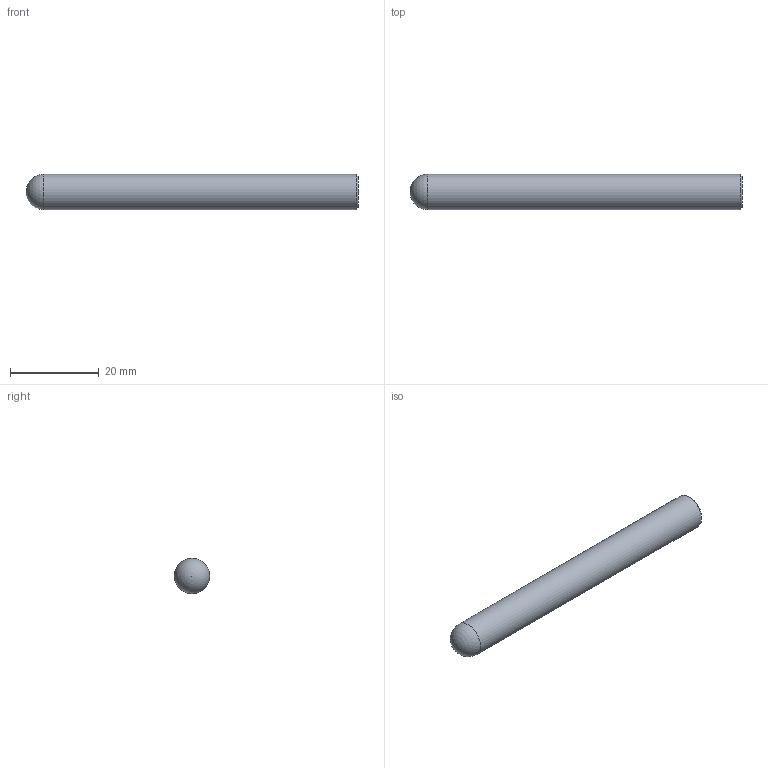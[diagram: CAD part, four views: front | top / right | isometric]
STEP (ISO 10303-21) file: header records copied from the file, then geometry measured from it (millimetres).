
FILE_DESCRIPTION(/* description */ (''),/* implementation_level */ '2;1');
FILE_NAME(/* name */ 'HSXB2080 0875.stp',/* time_stamp */ '2026-08-01T17:22:36+08:00',/* author */ (''),/* organization */ (''),/* preprocessor_version */ 'ST-DEVELOPER v16',/* originating_system */ 'SIEMENS PLM Software NX 10.0',/* authorisation */ '');
FILE_SCHEMA (('CONFIG_CONTROL_DESIGN'));
Length unit declared in the file: millimetre
Products named in the file (1): HSXB2080 0875_dxf
Bounding box: 75 x 8 x 8 mm (x, y, z)
Volume: 3700.9 mm3; surface area: 1929.1 mm2
Topology: 1 solids, 1 shells, 4 faces, 8 edges, 5 vertices
Faces by surface type: plane 1, sphere 1, cylinder 1, cone 1
Full cylindrical faces by diameter (mm): 8 x1
Entity records: 158 total; most frequent: DIRECTION 16, CARTESIAN_POINT 11, AXIS2_PLACEMENT_3D 8, PERSON_AND_ORGANIZATION 7, ORGANIZATION 7, EDGE_LOOP 6, ORIENTED_EDGE 6, DATE_AND_TIME 5
